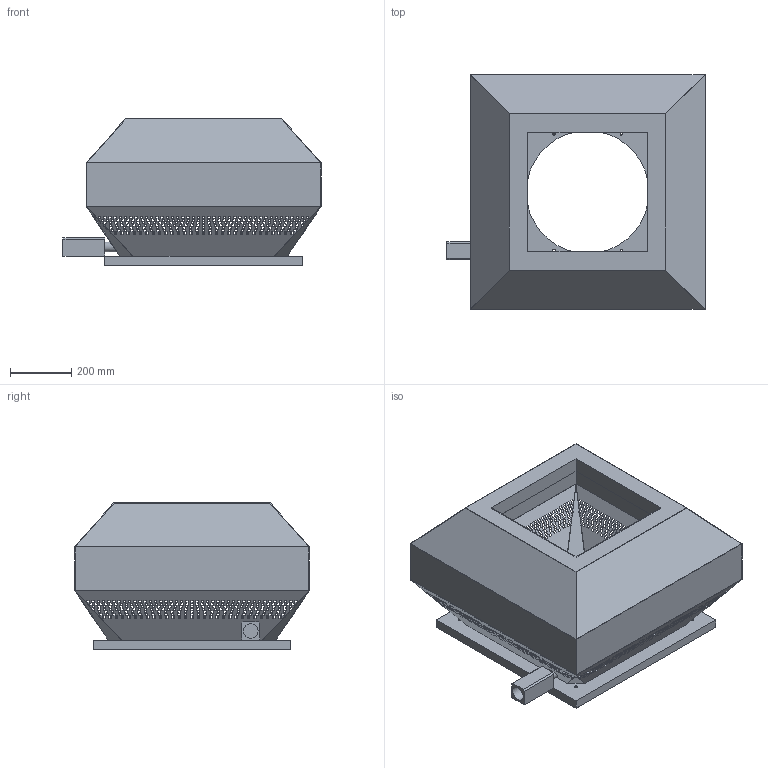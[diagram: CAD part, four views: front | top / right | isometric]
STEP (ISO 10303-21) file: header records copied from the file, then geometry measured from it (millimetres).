
FILE_DESCRIPTION(/* description */ (''),/* implementation_level */ '2;1');
FILE_NAME(/* name */ 'Z:\Output\RDW_400-4-07350-001.stp',/* time_stamp */ '2020-06-25T16:52:03+02:00',/* author */ ('engineering1'),/* organization */ (''),/* preprocessor_version */ 'ST-DEVELOPER v17.2',/* originating_system */ 'Autodesk Inventor 2019',/* authorisation */ '');
FILE_SCHEMA (('AUTOMOTIVE_DESIGN { 1 0 10303 214 3 1 1 }'));
Products named in the file (1): RD-2
Bounding box: 841 x 765 x 477.5 mm (x, y, z)
Volume: 4671610.6 mm3; surface area: 3934343.1 mm2
Topology: 1 solids, 1 shells, 4015 faces, 12066 edges, 8020 vertices
Faces by surface type: plane 4001, cylinder 14
Full cylindrical faces by diameter (mm): 8 x6, 12 x4, 31.833 x2, 47.75 x1, 400 x1
Entity records: 138497 total; most frequent: ORIENTED_EDGE 24132, CARTESIAN_POINT 24102, DIRECTION 20126, EDGE_CURVE 12066, LINE 12038, VECTOR 12038, VERTEX_POINT 8020, EDGE_LOOP 5966
